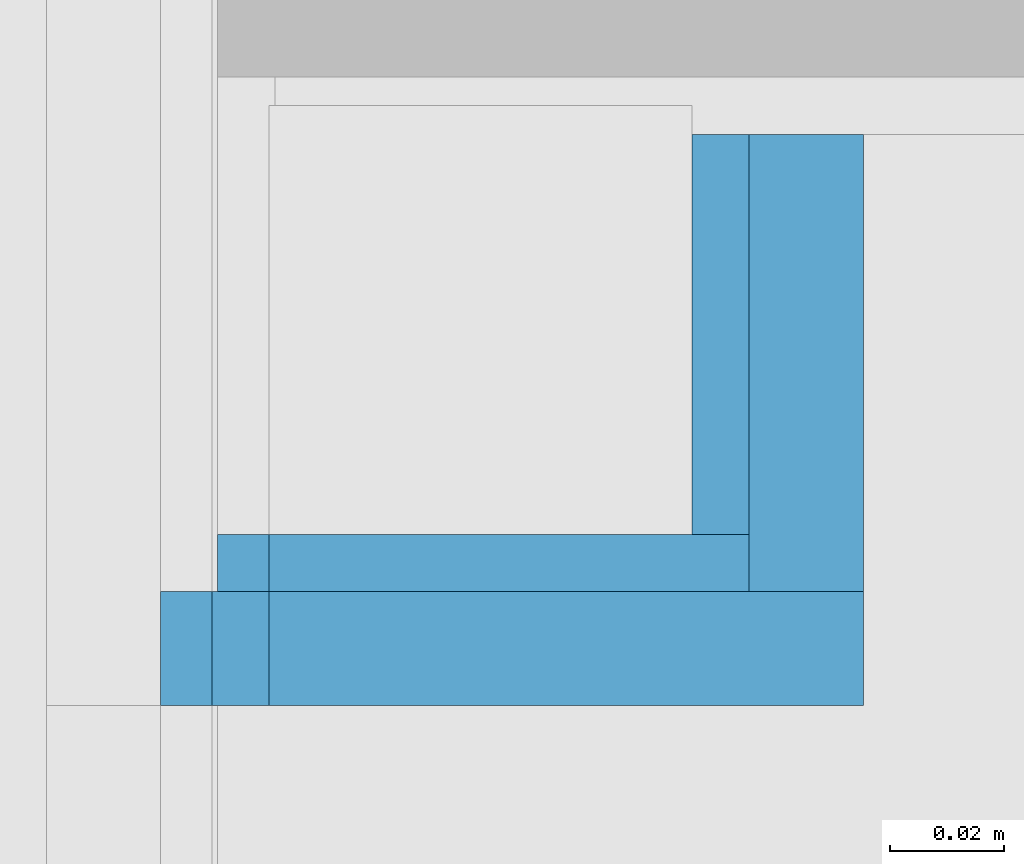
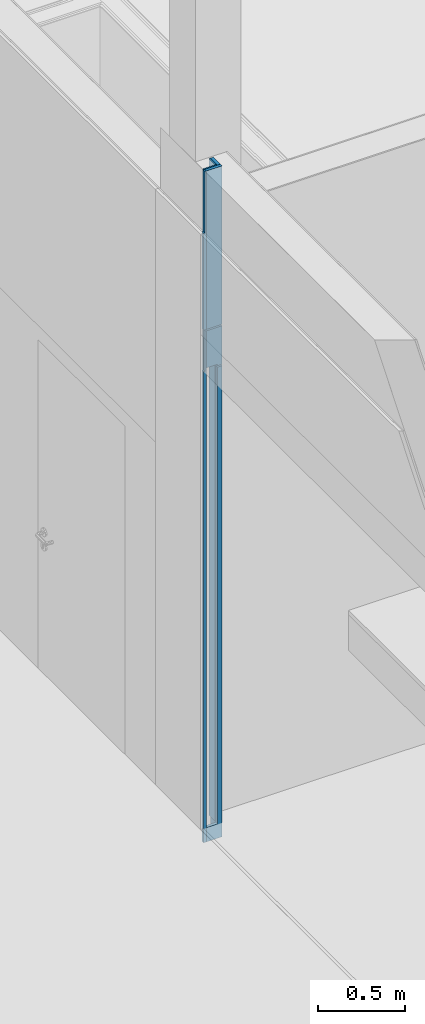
# One storey, part 174 of 260: 6 building element parts, 3 elements without a shape of their own.
"""IFC2X3 building model written with IfcOpenShell, lengths in millimetres."""

from ifc_helpers import new_model, entity, si_unit, converted_unit, derived_unit, money_unit, direction, frame, origin_with_axes, place, context, subcontext, project, spatial, faceted_brep, material, type_object, element, aggregate, save


model = new_model("IFC2X3")

# Units and contexts
model_context = context("Model", 3, precision=0.01, world=origin_with_axes(), true_north=direction((0.0, 1.0)))
body_context = subcontext(model_context, "Body", "Model", "MODEL_VIEW")
ifc_project = project(units=[si_unit("LENGTHUNIT", "METRE", prefix="MILLI"), si_unit("AREAUNIT", "SQUARE_METRE"), si_unit("VOLUMEUNIT", "CUBIC_METRE"), converted_unit("PLANEANGLEUNIT", "DEGREE", entity("IfcPlaneAngleMeasure", 0.0174532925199), si_unit("PLANEANGLEUNIT", "RADIAN"), dimensions=[0, 0, 0, 0, 0, 0, 0]), money_unit("EUR"), converted_unit("TIMEUNIT", "Year", entity("IfcTimeMeasure", 31556926.0), si_unit("TIMEUNIT", "SECOND"), dimensions=[0, 0, 1, 0, 0, 0, 0]), si_unit("MASSUNIT", "GRAM", prefix="KILO"), si_unit("THERMODYNAMICTEMPERATUREUNIT", "DEGREE_CELSIUS"), si_unit("LUMINOUSINTENSITYUNIT", "LUMEN"), si_unit("ENERGYUNIT", "JOULE", prefix="MEGA"), derived_unit("THERMALCONDUCTANCEUNIT", [(si_unit("POWERUNIT", "WATT"), 1), (si_unit("LENGTHUNIT", "METRE"), -1), (si_unit("THERMODYNAMICTEMPERATUREUNIT", "KELVIN"), -1)]), derived_unit("SPECIFICHEATCAPACITYUNIT", [(si_unit("ENERGYUNIT", "JOULE"), 1), (si_unit("MASSUNIT", "GRAM", prefix="KILO"), -1), (si_unit("THERMODYNAMICTEMPERATUREUNIT", "KELVIN"), -1)]), derived_unit("MASSDENSITYUNIT", [(si_unit("MASSUNIT", "GRAM", prefix="KILO"), 1), (si_unit("VOLUMEUNIT", "CUBIC_METRE"), -1)])], contexts=[model_context])

# Site, building, storey
site_placement = place(None, origin_with_axes())
site = spatial("IfcSite", under=ifc_project, at=site_placement, Name="Kolde pst 67a", CompositionType="ELEMENT")
building_placement = place(site_placement, origin_with_axes())
building = spatial("IfcBuilding", under=site, at=building_placement, Name="Riigigümnaasium", CompositionType="ELEMENT")
storey_placement = place(building_placement, origin_with_axes())
storey = spatial("IfcBuildingStorey", under=building, at=storey_placement, Name="1. korrus", CompositionType="ELEMENT", Elevation=0.0)

# Wall, building element parts
wall_type = type_object("IfcWallType", Name="SS-MK-1/1_1x dold pinnakiht 30", PredefinedType="NOTDEFINED")
wall_1_placement = place(storey_placement, frame((52619.9941206, 34159.9999729, -120.1), z_axis=(0.0, 0.0, 1.0), x_axis=(1.0, 0.0, 0.0)))
wall_1 = element("IfcWall", 1, at=wall_1_placement, inside=storey, type_object=wall_type, Name="Sisesein")
ifc_material_1 = material(Name="_KARKASS - eriprofiilkinnitus vastavalt sisemisele plaatviimistlusele")
building_element_part_1_placement = place(wall_1_placement, origin_with_axes())
building_element_part_1 = element("IfcBuildingElementPart", 2, at=building_element_part_1_placement, material=ifc_material_1, Name="_KARKASS - eriprofiilkinnitus vastavalt sisemisele plaatviimistlusele", context=body_context, shape_type="Brep", body=[
    faceted_brep([(0.0, 0.0, 120.1), (2.9794762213e-06, 0.0, 3600.09999806), (9.00000148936, 0.0, 3600.09999806), (9.00000148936, 0.0, 120.1), (0.0, -10.0, 120.1), (2.9794762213e-06, -10.0, 3600.09999806), (9.00000148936, -10.0, 3600.09999806), (9.00000148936, -10.0, 120.1)], [[[0, 1, 2, 3]], [[4, 5, 1, 0]], [[5, 6, 2, 1]], [[3, 2, 6, 7]], [[7, 4, 0, 3]], [[7, 6, 5, 4]]]),
    faceted_brep([(9.00000148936, -10.0, 3610.1), (9.00000148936, 0.0, 3610.1), (9.00000148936, 0.0, 4720.1), (9.00000148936, -10.0, 4720.1), (0.0, 0.0, 3610.1), (0.0, -10.0, 3610.1), (0.0, 0.0, 4720.1), (0.0, -10.0, 4720.1)], [[[0, 1, 2, 3]], [[4, 1, 0, 5]], [[1, 4, 6, 2]], [[6, 7, 3, 2]], [[5, 0, 3, 7]], [[4, 5, 7, 6]]]),
])
ifc_material_2 = material(Name="_VIIMISTLUSKIHT - Dold plaat vastavalt SA osale")
building_element_part_2_placement = place(wall_1_placement, origin_with_axes())
building_element_part_2 = element("IfcBuildingElementPart", 3, at=building_element_part_2_placement, material=ifc_material_2, Name="_VIIMISTLUSKIHT - Dold plaat vastavalt SA osale", context=body_context, shape_type="Brep", body=[
    faceted_brep([(-9.99999895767, -10.0, 3320.1), (2.9794762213e-06, -10.0, 3320.1), (2.9794762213e-06, -10.0, 3600.09999806), (9.00000148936, -10.0, 3600.09999806), (9.00000148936, -10.0, 20.0), (-10.0, -10.0, 20.0), (2.9794762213e-06, -30.0, 3320.1), (-9.99999895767, -30.0, 3320.1), (2.9794762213e-06, -30.0, 3600.09999806), (9.00000148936, -30.0, 3600.09999806), (9.00000148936, -30.0, 20.0), (-10.0, -30.0, 20.0)], [[[0, 1, 2, 3, 4, 5]], [[6, 1, 0, 7]], [[8, 2, 1, 6]], [[8, 9, 3, 2]], [[4, 3, 9, 10]], [[10, 11, 5, 4]], [[11, 7, 0, 5]], [[8, 6, 7, 11, 10, 9]]]),
    faceted_brep([(9.00000148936, -30.0, 3610.1), (9.00000148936, -10.0, 3610.1), (9.00000148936, -10.0, 4720.1), (9.00000148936, -30.0, 4720.1), (-9.99999895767, -10.0, 3610.1), (-9.99999895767, -30.0, 3610.1), (-10.0, -10.0, 4290.1), (-0.999998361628, -10.0, 4290.1), (-0.999998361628, -10.0, 4720.1), (-0.999998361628, -30.0, 4720.1), (-0.999998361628, -30.0, 4290.1), (-10.0, -30.0, 4290.1)], [[[0, 1, 2, 3]], [[4, 1, 0, 5]], [[1, 4, 6, 7, 8, 2]], [[2, 8, 9, 3]], [[5, 0, 3, 9, 10, 11]], [[4, 5, 11, 6]], [[10, 7, 6, 11]], [[9, 8, 7, 10]]]),
])
aggregate(wall_1, [building_element_part_1, building_element_part_2])

wall_2_placement = place(storey_placement, frame((52628.9941221, 34159.9999729, -120.1), z_axis=(0.0, 0.0, 1.0), x_axis=(1.0, 0.0, 0.0)))
wall_2 = element("IfcWall", 4, at=wall_2_placement, inside=storey, type_object=wall_type, Name="Sisesein")
building_element_part_3_placement = place(wall_2_placement, origin_with_axes())
building_element_part_3 = element("IfcBuildingElementPart", 5, at=building_element_part_3_placement, material=ifc_material_1, Name="_KARKASS - eriprofiilkinnitus vastavalt sisemisele plaatviimistlusele", context=body_context, shape_type="Brep", body=[
    faceted_brep([(74.0, 0.0, 120.1), (74.0, 0.0, 3320.1), (84.0, 0.0, 3320.1), (84.0, 0.0, 120.1), (74.0, -10.0, 3320.1), (74.0, -10.0, 120.1), (84.0, -10.0, 3320.1), (84.0, -10.0, 120.1)], [[[0, 1, 2, 3]], [[4, 1, 0, 5]], [[1, 4, 6, 2]], [[3, 2, 6, 7]], [[5, 0, 3, 7]], [[4, 5, 7, 6]]]),
    faceted_brep([(74.0, 0.0, 3340.1), (0.0, 0.0, 3340.1), (0.0, 0.0, 3600.09999806), (84.0, 0.0, 3600.09999806), (84.0, 0.0, 3330.10000194), (74.0, 0.0, 3330.10000194), (74.0, -10.0, 3340.1), (0.0, -10.0, 3340.1), (0.0, -10.0, 3600.09999806), (84.0, -10.0, 3600.09999806), (84.0, -10.0, 3330.10000194), (74.0, -10.0, 3330.10000194)], [[[0, 1, 2, 3, 4, 5]], [[1, 0, 6, 7]], [[1, 7, 8, 2]], [[8, 9, 3, 2]], [[4, 3, 9, 10]], [[11, 5, 4, 10]], [[0, 5, 11, 6]], [[6, 11, 10, 9, 8, 7]]]),
    faceted_brep([(84.0, -10.0, 3610.1), (84.0, 0.0, 3610.1), (84.0, 0.0, 4720.1), (84.0, -10.0, 4720.1), (0.0, 0.0, 3610.1), (0.0, -10.0, 3610.1), (0.0, 0.0, 4720.1), (0.0, -10.0, 4720.1)], [[[0, 1, 2, 3]], [[4, 1, 0, 5]], [[1, 4, 6, 2]], [[7, 3, 2, 6]], [[5, 0, 3, 7]], [[4, 5, 7, 6]]]),
])
building_element_part_4_placement = place(wall_2_placement, origin_with_axes())
building_element_part_4 = element("IfcBuildingElementPart", 6, at=building_element_part_4_placement, material=ifc_material_2, Name="_VIIMISTLUSKIHT - Dold plaat vastavalt SA osale", context=body_context, shape_type="Brep", body=[
    faceted_brep([(0.0, -10.0, 120.1), (74.0, -10.0, 120.1), (74.0, -10.0, 3320.1), (104.0, -10.0, 3320.1), (104.0, -10.0, 20.0), (0.0, -10.0, 20.0), (0.0, -30.0, 120.1), (74.0, -30.0, 120.1), (74.0, -30.0, 3320.1), (104.0, -30.0, 3320.1), (104.0, -30.0, 20.0), (0.0, -30.0, 20.0)], [[[0, 1, 2, 3, 4, 5]], [[1, 0, 6, 7]], [[8, 2, 1, 7]], [[2, 8, 9, 3]], [[4, 3, 9, 10]], [[10, 11, 5, 4]], [[6, 0, 5, 11]], [[7, 6, 11, 10, 9, 8]]]),
    faceted_brep([(74.0, -10.0, 3340.1), (0.0, -10.0, 3340.1), (0.0, -10.0, 3600.09999806), (104.0, -10.0, 3600.09999806), (104.0, -10.0, 3330.10000194), (74.0, -10.0, 3330.10000194), (74.0, -30.0, 3340.1), (0.0, -30.0, 3340.1), (0.0, -30.0, 3600.09999806), (104.0, -30.0, 3600.09999806), (104.0, -30.0, 3330.10000194), (74.0, -30.0, 3330.10000194)], [[[0, 1, 2, 3, 4, 5]], [[1, 0, 6, 7]], [[1, 7, 8, 2]], [[8, 9, 3, 2]], [[4, 3, 9, 10]], [[11, 5, 4, 10]], [[0, 5, 11, 6]], [[6, 11, 10, 9, 8, 7]]]),
    faceted_brep([(104.0, -30.0, 3610.1), (104.0, -10.0, 3610.1), (104.0, -10.0, 4720.1), (104.0, -30.0, 4720.1), (0.0, -10.0, 3610.1), (0.0, -30.0, 3610.1), (0.0, -10.0, 4720.1), (0.0, -30.0, 4720.1)], [[[0, 1, 2, 3]], [[4, 1, 0, 5]], [[1, 4, 6, 2]], [[7, 3, 2, 6]], [[5, 0, 3, 7]], [[4, 5, 7, 6]]]),
])
aggregate(wall_2, [building_element_part_3, building_element_part_4])

wall_3_placement = place(storey_placement, frame((52702.9941221, 34159.9999729, -120.1), z_axis=(0.0, 0.0, 1.0), x_axis=(0.0, 1.0, 0.0)))
wall_3 = element("IfcWall", 7, at=wall_3_placement, inside=storey, type_object=wall_type, Name="Sisesein")
building_element_part_5_placement = place(wall_3_placement, origin_with_axes())
building_element_part_5 = element("IfcBuildingElementPart", 8, at=building_element_part_5_placement, material=ifc_material_1, Name="_KARKASS - eriprofiilkinnitus vastavalt sisemisele plaatviimistlusele", context=body_context, shape_type="Brep", body=[
    faceted_brep([(70.0, 0.0, 3320.1), (70.0, -10.0, 3320.1), (70.0, -10.0, 120.1), (70.0, 0.0, 120.1), (0.0, -10.0, 3320.1), (0.0, 0.0, 3320.1), (0.0, -10.0, 120.1), (0.0, 0.0, 120.1)], [[[0, 1, 2, 3]], [[4, 1, 0, 5]], [[1, 4, 6, 2]], [[7, 3, 2, 6]], [[5, 0, 3, 7]], [[4, 5, 7, 6]]]),
    faceted_brep([(70.0, -10.0, 3600.09999806), (0.0, -10.0, 3600.09999806), (0.0, -10.0, 3330.10000194), (70.0, -10.0, 3330.10000194), (70.0, 0.0, 3600.09999806), (0.0, 0.0, 3600.09999806), (0.0, 0.0, 3330.10000194), (70.0, 0.0, 3330.10000194)], [[[0, 1, 2, 3]], [[1, 0, 4, 5]], [[1, 5, 6, 2]], [[7, 3, 2, 6]], [[4, 0, 3, 7]], [[5, 4, 7, 6]]]),
    faceted_brep([(0.0, -10.0, 3610.1), (70.0, -10.0, 3610.1), (70.0, -10.0, 4720.1), (0.0, -10.0, 4720.1), (70.0, 0.0, 3610.1), (0.0, 0.0, 3610.1), (70.0, 0.0, 4720.1), (0.0, 0.0, 4720.1)], [[[0, 1, 2, 3]], [[4, 1, 0, 5]], [[1, 4, 6, 2]], [[7, 3, 2, 6]], [[5, 0, 3, 7]], [[4, 5, 7, 6]]]),
])
building_element_part_6_placement = place(wall_3_placement, origin_with_axes())
building_element_part_6 = element("IfcBuildingElementPart", 9, at=building_element_part_6_placement, material=ifc_material_2, Name="_VIIMISTLUSKIHT - Dold plaat vastavalt SA osale", context=body_context, shape_type="Brep", body=[
    faceted_brep([(70.0, -10.0, 3320.1), (70.0, -30.0, 3320.1), (70.0, -30.0, 20.0), (70.0, -10.0, 20.0), (-10.0, -30.0, 3320.1), (-10.0, -10.0, 3320.1), (-10.0, -30.0, 20.0), (-10.0, -10.0, 20.0)], [[[0, 1, 2, 3]], [[4, 1, 0, 5]], [[1, 4, 6, 2]], [[7, 3, 2, 6]], [[5, 0, 3, 7]], [[4, 5, 7, 6]]]),
    faceted_brep([(70.0, -30.0, 3600.09999806), (-10.0, -30.0, 3600.09999806), (-10.0, -30.0, 3330.10000194), (70.0, -30.0, 3330.10000194), (70.0, -10.0, 3600.09999806), (-10.0, -10.0, 3600.09999806), (-10.0, -10.0, 3330.10000194), (70.0, -10.0, 3330.10000194)], [[[0, 1, 2, 3]], [[1, 0, 4, 5]], [[1, 5, 6, 2]], [[7, 3, 2, 6]], [[4, 0, 3, 7]], [[5, 4, 7, 6]]]),
    faceted_brep([(-10.0, -30.0, 3610.1), (70.0, -30.0, 3610.1), (70.0, -30.0, 4720.1), (-10.0, -30.0, 4720.1), (70.0, -10.0, 3610.1), (-10.0, -10.0, 3610.1), (70.0, -10.0, 4720.1), (-10.0, -10.0, 4720.1)], [[[0, 1, 2, 3]], [[4, 1, 0, 5]], [[1, 4, 6, 2]], [[7, 3, 2, 6]], [[5, 0, 3, 7]], [[4, 5, 7, 6]]]),
])
aggregate(wall_3, [building_element_part_5, building_element_part_6])

save(model, "model.ifc")
